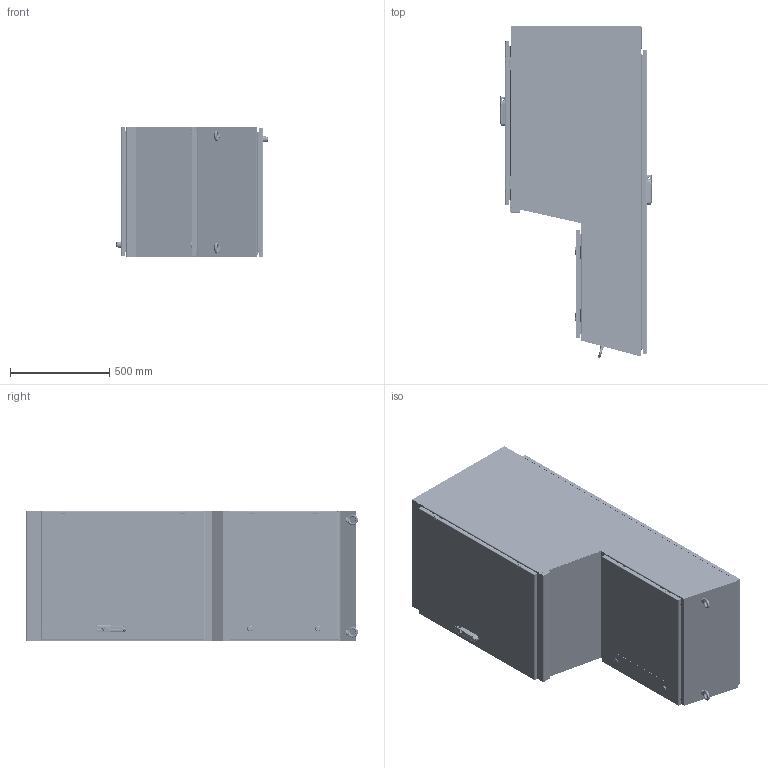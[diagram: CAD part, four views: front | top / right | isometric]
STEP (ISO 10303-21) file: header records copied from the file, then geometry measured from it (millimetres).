
FILE_DESCRIPTION((''),'2;1');
FILE_NAME('MODEL-196_ASM','2023-01-23T09:25:51',('johnh'),('SAGINAW CONTROL & ENGINEERING'),'CREO PARAMETRIC BY PTC INC, 2021284','CREO PARAMETRIC BY PTC INC, 2021284','');
FILE_SCHEMA(('AUTOMOTIVE_DESIGN { 1 0 10303 214 1 1 1 1 }'));
Length unit declared in the file: inch
Products named in the file (84): MODEL-196-BTM; MODEL-196-R-SD; MODEL-196-L-SD; MODEL-196-FRNT; MODEL-196-TP; MODEL-196-FU-DR; MODEL-196-PR-GSKT-FU; 100057; 100794_SHAFT; 100794_INSERT; 100794_CAM; 100794_NUT; 100794_SCREW; 100794_AF0_ASM; 100794_AF1_ASM; MODEL-196-LEX; 100011; 117899; 118662; 126391; 126391_ASM; 126393; 102483; 101376; 101226; 102140; MODEL-196-FU-DOOR-ASSY_ASM; MODEL-196-FL-DR; MODEL-196-PR-GSKT-FL; 100837; 129333-HANDLE-BASE; 129333-HANDLE-STOP; 129333-CAM-ADAPTER; 129333-LOCK-NUT; 129333-BASE-CAP; 129333-HANDLE-SHAFT-O-RING; 129333-HANDLE-LOCK; 129333-HANDLE-SHAFT; 129333-HANDLE-PIN; 129333-KEYLOCK-INSERT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
Assembly tree (212 placements, depth 5):
  MODEL-196_ASM
    MODEL-196-BTM
    MODEL-196-R-SD
    MODEL-196-L-SD
    MODEL-196-FRNT
    MODEL-196-TP
    MODEL-196-FU-DOOR-ASSY_ASM
      MODEL-196-FU-DR
      MODEL-196-PR-GSKT-FU
      100057
      100794_AF0_ASM
        100794_SHAFT
        100794_INSERT
        100794_CAM
        100794_NUT
        100794_SCREW
      100794_AF1_ASM
        100794_SHAFT
        100794_INSERT
        100794_CAM
        100794_NUT
        100794_SCREW
      MODEL-196-LEX
      100011  x8
      117899  x8
      118662  x8
      126391_ASM  x2
        126391
      126393  x2
      102483  x6
      101376  x2
      101226  x2
      102140  x2
    MODEL-196-FL-DOOR-ASSY_ASM
      MODEL-196-FL-DR
      MODEL-196-PR-GSKT-FL
      100837  x3
      129333_ASM
        129333-HANDLE-BASE
        129333-HANDLE-STOP
        129333-CAM-ADAPTER
        129333-LOCK-NUT
        129333-BASE-CAP
        129333-HANDLE_ASM
          129333-HANDLE-SHAFT-O-RING
          129333-HANDLE-LOCK
          129333-HANDLE-SHAFT
          129333-HANDLE-PIN
          129333-KEYLOCK-INSERT
          129333-HANDLE
          129333-HANDLE-LOCK-SCREW
        129333-NUT  x2
      128142_ASM
        128142
        100030  x2
      MODEL-196-ROD-FRNT-UPR_ASM
        MODEL-196-ROD-FRNT-UPR
        128146
        128145
        128144
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Bounding box: 767.06 x 1673.77 x 660.4 mm (x, y, z)
Volume: 14448334.5 mm3; surface area: 12639984.2 mm2
Topology: 220 solids, 220 shells, 15884 faces, 40504 edges, 24989 vertices
Faces by surface type: plane 6010, cylinder 4816, bspline 2464, torus 1210, cone 726, sphere 598, extrusion 60
Entity records: 334181 total; most frequent: CARTESIAN_POINT 126303, ORIENTED_EDGE 31628, DIRECTION 29095, PRESENTATION_STYLE_ASSIGNMENT 15973, EDGE_CURVE 15814, STYLED_ITEM 15698, CURVE_STYLE 15530, AXIS2_PLACEMENT_3D 10869
